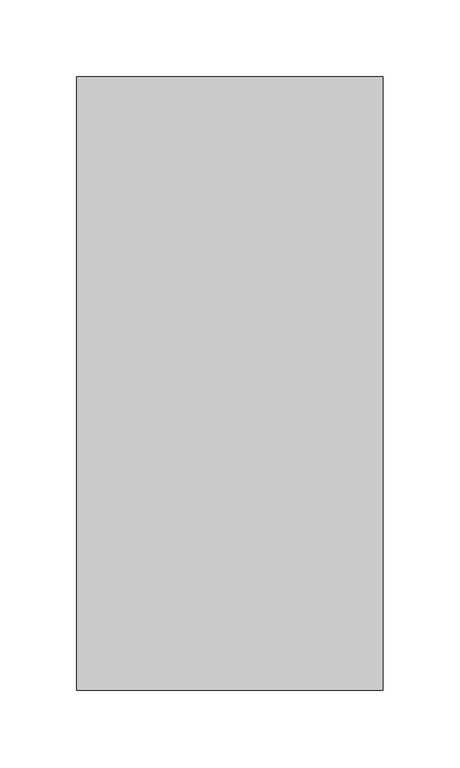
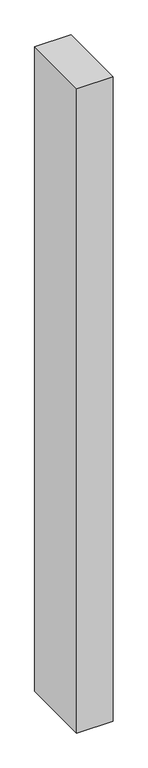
"""IFC4 building model written with IfcOpenShell, lengths in millimetres: column geometry, Poteaux porteurs - Poteau béton - Rectangulaire - 2000mm x 400mm."""

from ifc_helpers import new_model, si_unit, frame, origin, place, context, project, spatial, polyline, outline, extrude, source, transform, mapped, element, save


def column_d8b84b54(model_context):
    return source(origin(), model_context, "Body", "SweptSolid", [
        extrude(outline(polyline([(-100.0, 200.0), (100.0, 200.0), (100.0, -200.0), (-100.0, -200.0), (-100.0, 200.0)])), frame((0.0, 0.0, -200.0), z_axis=(0.0, 0.0, 1.0), x_axis=(1.0, 0.0, 0.0)), (0.0, 0.0, 1.0), 3750.0),
    ])


if __name__ == "__main__":
    model = new_model("IFC4")
    model_context = context("Model", 3, world=origin())
    ifc_project = project(units=[si_unit("LENGTHUNIT", "METRE", prefix="MILLI")], contexts=[model_context])
    site = spatial("IfcSite", under=ifc_project)
    building = spatial("IfcBuilding", under=site)
    placement = place(None, origin())
    column_shape = column_d8b84b54(model_context)
    element("IfcColumn", 1, ObjectType="Poteaux porteurs - Poteau béton - Rectangulaire - 2000mm x 400mm", at=placement, inside=building, context=model_context, shape_type="MappedRepresentation", body=[
        mapped(column_shape, transform((0.0, 0.0, 0.0), x_axis=(1.0, 0.0, 0.0), y_axis=(0.0, 1.0, 0.0), z_axis=(0.0, 0.0, 1.0))),
    ])
    save(model, "model.ifc")
